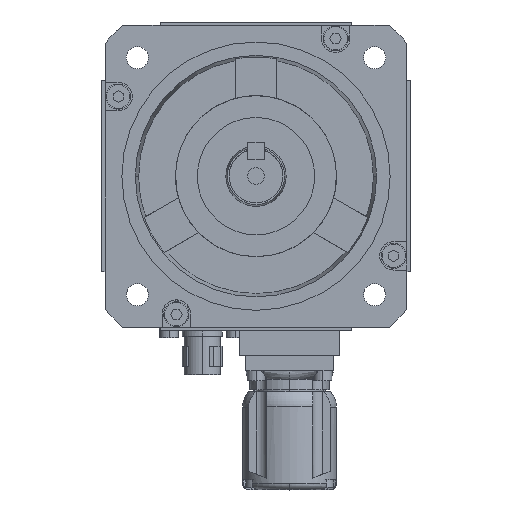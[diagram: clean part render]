
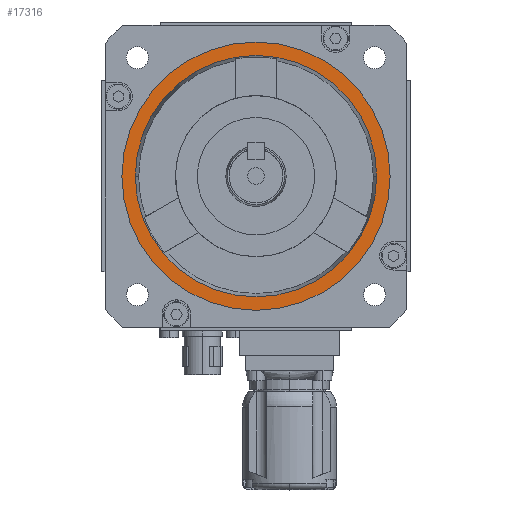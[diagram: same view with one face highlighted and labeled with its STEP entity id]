
A CAD part, top view. The second image highlights one B-rep face of the part: STEP entity #17316.
In plain terms, the highlighted planar face has unit normal (0, 0, 1).
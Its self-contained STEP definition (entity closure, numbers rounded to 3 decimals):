
#5459 = CARTESIAN_POINT ( 'NONE',  ( -40., 0., 5. ) ) ;
#5460 = CARTESIAN_POINT ( 'NONE',  ( 40., 0., 5. ) ) ;
#5461 = DIRECTION ( 'NONE',  ( 1., 0., 0. ) ) ;
#5462 = DIRECTION ( 'NONE',  ( 0., 0., 1. ) ) ;
#5463 = AXIS2_PLACEMENT_3D ( 'NONE', #5469, #5462, #5461 ) ;
#5464 = CIRCLE ( 'NONE', #5463, 40. ) ;
#5469 = CARTESIAN_POINT ( 'NONE',  ( 0., 0., 5. ) ) ;
#5726 = CARTESIAN_POINT ( 'NONE',  ( 36., 0., 5. ) ) ;
#5727 = DIRECTION ( 'NONE',  ( 1., 0., 0. ) ) ;
#5728 = DIRECTION ( 'NONE',  ( 0., 0., 1. ) ) ;
#5729 = CARTESIAN_POINT ( 'NONE',  ( 0., 0., 5. ) ) ;
#5730 = AXIS2_PLACEMENT_3D ( 'NONE', #5729, #5728, #5727 ) ;
#5731 = CIRCLE ( 'NONE', #5730, 36. ) ;
#5732 = CARTESIAN_POINT ( 'NONE',  ( -36., 0., 5. ) ) ;
#7443 = DIRECTION ( 'NONE',  ( 1., 0., 0. ) ) ;
#7444 = DIRECTION ( 'NONE',  ( 0., 0., 1. ) ) ;
#7445 = AXIS2_PLACEMENT_3D ( 'NONE', #7452, #7444, #7443 ) ;
#7446 = CIRCLE ( 'NONE', #7445, 36. ) ;
#7452 = CARTESIAN_POINT ( 'NONE',  ( 0., 0., 5. ) ) ;
#7534 = DIRECTION ( 'NONE',  ( 1., 0., 0. ) ) ;
#7535 = DIRECTION ( 'NONE',  ( 0., 0., 1. ) ) ;
#7536 = CARTESIAN_POINT ( 'NONE',  ( 0., 0., 5. ) ) ;
#7537 = AXIS2_PLACEMENT_3D ( 'NONE', #7536, #7535, #7534 ) ;
#7538 = PLANE ( 'NONE',  #7537 ) ;
#7539 = FACE_BOUND ( 'NONE', #17386, .T. ) ;
#7540 = FACE_OUTER_BOUND ( 'NONE', #17317, .T. ) ;
#7673 = DIRECTION ( 'NONE',  ( 1., 0., 0. ) ) ;
#7674 = DIRECTION ( 'NONE',  ( 0., 0., 1. ) ) ;
#7675 = CARTESIAN_POINT ( 'NONE',  ( 0., 0., 5. ) ) ;
#7676 = AXIS2_PLACEMENT_3D ( 'NONE', #7675, #7674, #7673 ) ;
#7677 = CIRCLE ( 'NONE', #7676, 40. ) ;
#16266 = EDGE_CURVE ( 'NONE', #16267, #16268, #5464, .T. ) ;
#16267 = VERTEX_POINT ( 'NONE', #5460 ) ;
#16268 = VERTEX_POINT ( 'NONE', #5459 ) ;
#16419 = VERTEX_POINT ( 'NONE', #5732 ) ;
#16421 = EDGE_CURVE ( 'NONE', #16419, #16422, #5731, .T. ) ;
#16422 = VERTEX_POINT ( 'NONE', #5726 ) ;
#17275 = EDGE_CURVE ( 'NONE', #16422, #16419, #7446, .T. ) ;
#17316 = ADVANCED_FACE ( 'NONE', ( #7540, #7539 ), #7538, .T. ) ;
#17317 = EDGE_LOOP ( 'NONE', ( #17318, #17385 ) ) ;
#17318 = ORIENTED_EDGE ( 'NONE', *, *, #17384, .T. ) ;
#17384 = EDGE_CURVE ( 'NONE', #16268, #16267, #7677, .T. ) ;
#17385 = ORIENTED_EDGE ( 'NONE', *, *, #16266, .T. ) ;
#17386 = EDGE_LOOP ( 'NONE', ( #17387, #17388 ) ) ;
#17387 = ORIENTED_EDGE ( 'NONE', *, *, #17275, .F. ) ;
#17388 = ORIENTED_EDGE ( 'NONE', *, *, #16421, .F. ) ;
